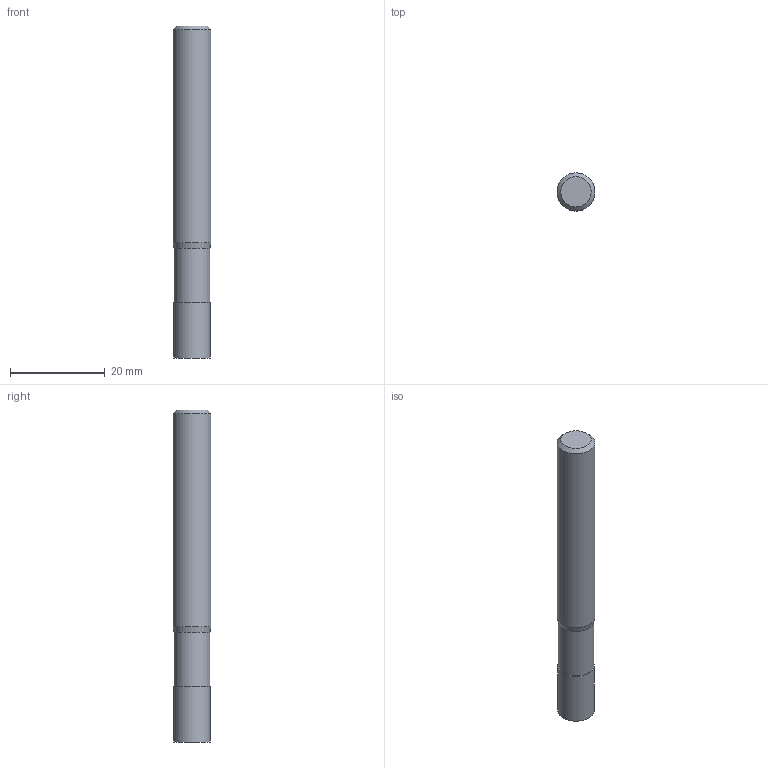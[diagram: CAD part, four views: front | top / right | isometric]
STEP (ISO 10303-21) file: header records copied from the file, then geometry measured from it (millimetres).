
FILE_DESCRIPTION((''),'2;1');
FILE_NAME('C:\Users\nsx150\AppData\Local\Temp\Mastercam 2021\EUJSUNXURU\TEMP.step','2021-04-22T10:29:17',(''),(''),'STEP Write','Mastercam 2021 ... CNC Software, Inc.','');
FILE_SCHEMA(('AUTOMOTIVE_DESIGN'));
Length unit declared in the file: millimetre
Products named in the file (1): None
Bounding box: 8 x 8 x 70 mm (x, y, z)
Volume: 3394.5 mm3; surface area: 1905 mm2
Topology: 2 solids, 2 shells, 9 faces, 12 edges, 7 vertices
Faces by surface type: plane 4, cylinder 3, cone 2
Full cylindrical faces by diameter (mm): 7.5 x1, 7.7 x1, 8 x1
Entity records: 211 total; most frequent: DIRECTION 36, CARTESIAN_POINT 25, AXIS2_PLACEMENT_3D 18, ORIENTED_EDGE 14, EDGE_LOOP 14, STYLED_ITEM 12, ADVANCED_FACE 9, FACE_BOUND 8
